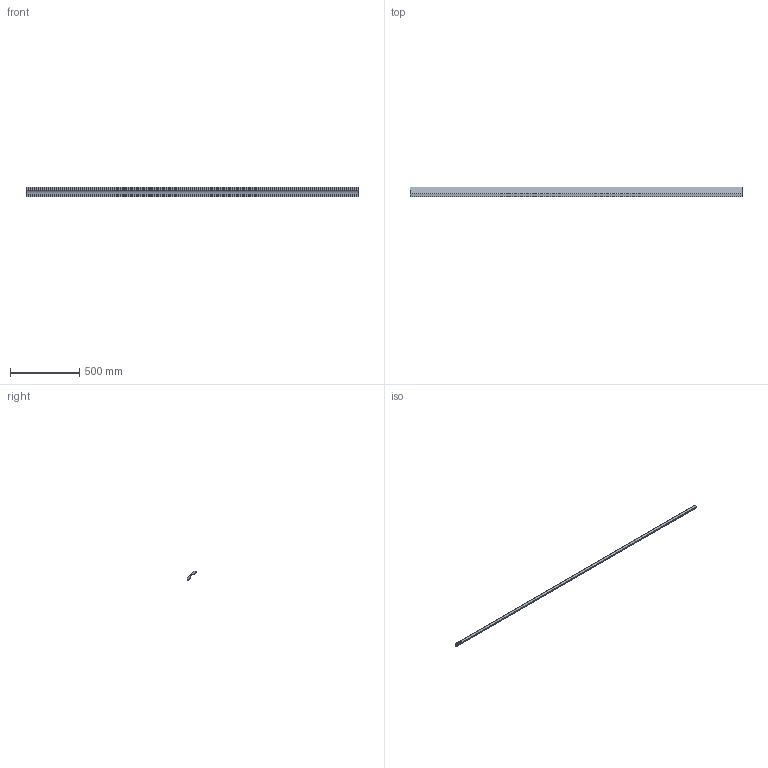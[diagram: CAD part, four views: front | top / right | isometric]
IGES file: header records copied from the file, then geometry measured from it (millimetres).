
Global section: file name: C:\Users\Wicad\Desktop\mardom listwy do wys; native system: Rhinoceros ( Mar  9 2011 ); preprocessor: Trout Lake IGES 012 Mar  9 2011; date: 120525.080658; units: centimetre
Bounding box: 2400 x 70 x 70 mm (x, y, z)
Surface area: 580057.5 mm2 (no closed solid volume)
Topology: 0 solids, 0 shells, 16 faces, 84 edges, 84 vertices
Faces by surface type: bspline 14, plane 2
